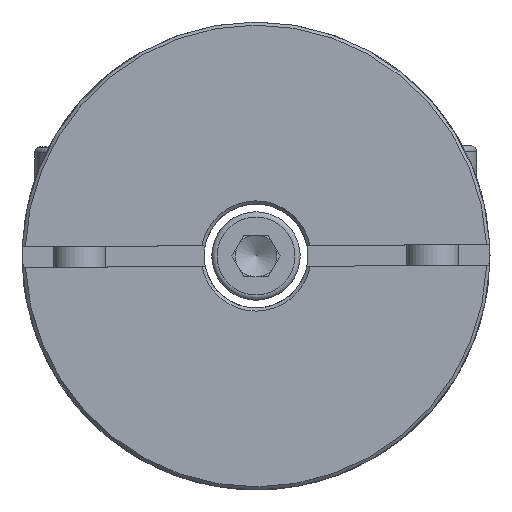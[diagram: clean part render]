
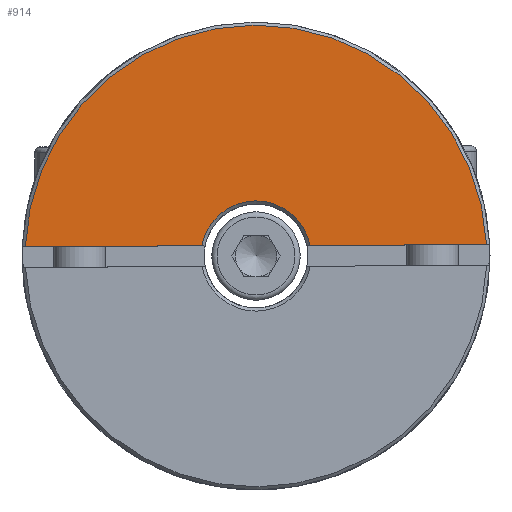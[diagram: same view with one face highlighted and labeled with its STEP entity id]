
A CAD part, left-side view. The second image highlights one B-rep face of the part: STEP entity #914.
In plain terms, the highlighted planar face has unit normal (-1, 0, 0) as drawn and (1, 0, 0) by its records, which use the part's own axes.
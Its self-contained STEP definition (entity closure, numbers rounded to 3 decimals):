
#914 = ADVANCED_FACE( '', ( #1381 ), #1382, .T. );
#1381 = FACE_OUTER_BOUND( '', #1639, .T. );
#1382 = PLANE( '', #1640 );
#1639 = EDGE_LOOP( '', ( #2001, #2002, #2003, #2004 ) );
#1640 = AXIS2_PLACEMENT_3D( '', #2005, #2006, #2007 );
#2001 = ORIENTED_EDGE( '', *, *, #2488, .F. );
#2002 = ORIENTED_EDGE( '', *, *, #2481, .T. );
#2003 = ORIENTED_EDGE( '', *, *, #2469, .F. );
#2004 = ORIENTED_EDGE( '', *, *, #2486, .T. );
#2005 = CARTESIAN_POINT( '', ( 19.5, 0., 22.5 ) );
#2006 = DIRECTION( '', ( 1., 0., 0. ) );
#2007 = DIRECTION( '', ( 0., 0., -1. ) );
#2469 = EDGE_CURVE( '', #2762, #2763, #2764, .T. );
#2481 = EDGE_CURVE( '', #2785, #2763, #2786, .T. );
#2486 = EDGE_CURVE( '', #2762, #2792, #2794, .F. );
#2488 = EDGE_CURVE( '', #2785, #2792, #2796, .T. );
#2762 = VERTEX_POINT( '', #2914 );
#2763 = VERTEX_POINT( '', #2915 );
#2764 = LINE( '', #2916, #2917 );
#2785 = VERTEX_POINT( '', #2948 );
#2786 = CIRCLE( '', #2949, 22.2 );
#2792 = VERTEX_POINT( '', #2958 );
#2794 = CIRCLE( '', #2963, 5.3 );
#2796 = LINE( '', #2966, #2967 );
#2914 = CARTESIAN_POINT( '', ( 19.5, -5.205, 1. ) );
#2915 = CARTESIAN_POINT( '', ( 19.5, -22.177, 1. ) );
#2916 = CARTESIAN_POINT( '', ( 19.5, 0., 1. ) );
#2917 = VECTOR( '', #3404, 1000. );
#2948 = CARTESIAN_POINT( '', ( 19.5, 22.177, 1. ) );
#2949 = AXIS2_PLACEMENT_3D( '', #3424, #3425, #3426 );
#2958 = CARTESIAN_POINT( '', ( 19.5, 5.205, 1. ) );
#2963 = AXIS2_PLACEMENT_3D( '', #3433, #3434, #3435 );
#2966 = CARTESIAN_POINT( '', ( 19.5, 0., 1. ) );
#2967 = VECTOR( '', #3437, 1000. );
#3404 = DIRECTION( '', ( 0., -1., 0. ) );
#3424 = CARTESIAN_POINT( '', ( 19.5, 0., 0. ) );
#3425 = DIRECTION( '', ( 1., 0., 0. ) );
#3426 = DIRECTION( '', ( 0., 0., -1. ) );
#3433 = CARTESIAN_POINT( '', ( 19.5, 0., 0. ) );
#3434 = DIRECTION( '', ( 1., 0., 0. ) );
#3435 = DIRECTION( '', ( 0., 0., -1. ) );
#3437 = DIRECTION( '', ( 0., -1., 0. ) );
